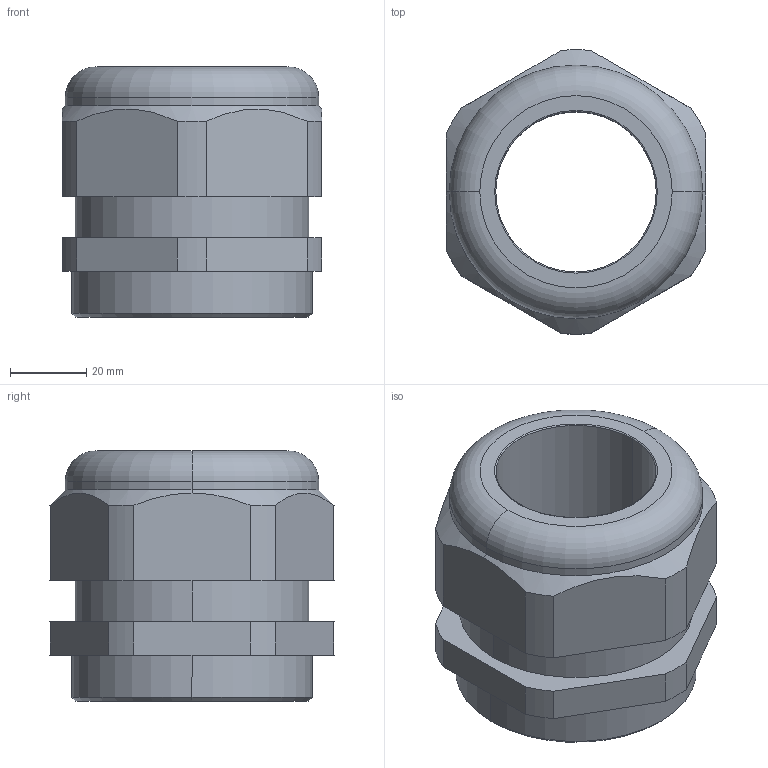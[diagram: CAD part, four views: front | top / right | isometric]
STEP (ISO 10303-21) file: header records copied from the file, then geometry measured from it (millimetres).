
FILE_DESCRIPTION (( 'STEP AP203' ), '1' );
FILE_NAME ('50.663 PA7001.STEP', '2005-09-19T09:33:59', ( ' ' ), ( '' ), 'SwSTEP 2.0', 'SolidWorks 2005143', '' );
FILE_SCHEMA (( 'CONFIG_CONTROL_DESIGN' ));
Length unit declared in the file: millimetre
Products named in the file (1): 50.663 PA7001
Bounding box: 68 x 74.46 x 65.5 mm (x, y, z)
Volume: 138887.6 mm3; surface area: 28653.1 mm2
Topology: 1 solids, 1 shells, 82 faces, 214 edges, 140 vertices
Faces by surface type: plane 54, cylinder 20, cone 4, torus 4
Entity records: 2671 total; most frequent: CARTESIAN_POINT 539, ORIENTED_EDGE 428, DIRECTION 422, EDGE_CURVE 214, LINE 156, VECTOR 156, VERTEX_POINT 140, AXIS2_PLACEMENT_3D 133
